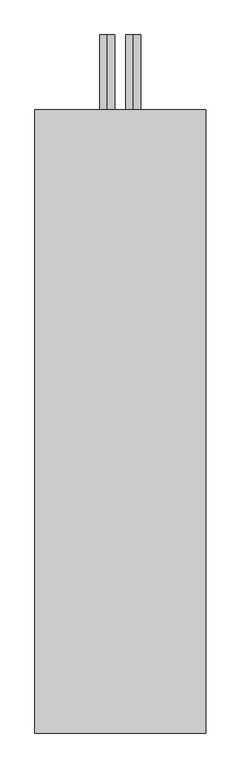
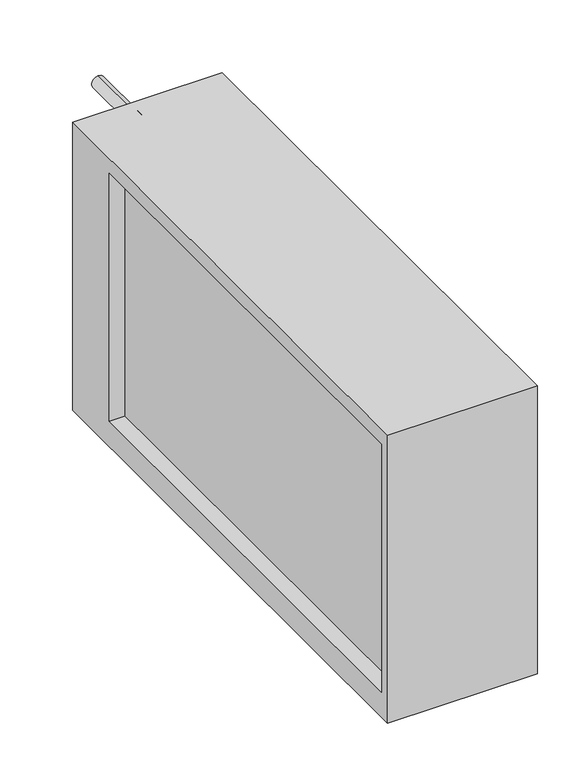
"""IFC4 building model written with IfcOpenShell, lengths in millimetres: proxy geometry, СВ_ВоздухоохладительВодяной_КанальныйПрямоугольный_200-1000_SPC-W : SPC-W-900x500-L."""

from ifc_helpers import new_model, si_unit, point, frame, frame_2d, origin, place, context, project, spatial, polyline, circle_curve, trimmed, segment, composite_curve, outline, extrude, source, transform, mapped, element, save


def mechanical_equipment_4c746dd5(model_context):
    return source(origin(), model_context, "Body", "SweptSolid", [
        extrude(outline(polyline([(-470.0, -300.0), (-470.0, 280.0), (570.0, 280.0), (570.0, -300.0), (-470.0, -300.0)]), holes=[polyline([(-450.0, 250.0), (-450.0, -250.0), (450.0, -250.0), (450.0, 250.0), (-450.0, 250.0)])]), frame((-142.5, 0.0, 0.0), z_axis=(1.0, 0.0, 0.0), x_axis=(0.0, 1.0, 0.0)), (0.0, 0.0, 1.0), 285.0),
        extrude(outline(composite_curve([segment(trimmed(circle_curve(frame_2d((-242.5, 21.5)), 12.5), [point((-255.0, 21.5))], [point((-230.0, 21.5))], False, "CARTESIAN"), True, "CONTINUOUS"), segment(trimmed(circle_curve(frame_2d((-242.5, 21.5)), 12.5), [point((-230.0, 21.5))], [point((-255.0, 21.5))], False, "CARTESIAN"), True, "CONTINUOUS")], self_intersect=False)), frame((0.0, 570.0, 0.0), z_axis=(0.0, 1.0, 0.0), x_axis=(0.0, 0.0, 1.0)), (0.0, 0.0, 1.0), 125.0),
        extrude(outline(composite_curve([segment(trimmed(circle_curve(frame_2d((242.5, -21.5)), 12.5), [point((230.0, -21.5))], [point((255.0, -21.5))], False, "CARTESIAN"), True, "CONTINUOUS"), segment(trimmed(circle_curve(frame_2d((242.5, -21.5)), 12.5), [point((255.0, -21.5))], [point((230.0, -21.5))], False, "CARTESIAN"), True, "CONTINUOUS")], self_intersect=False)), frame((0.0, 570.0, 0.0), z_axis=(0.0, 1.0, 0.0), x_axis=(0.0, 0.0, 1.0)), (0.0, 0.0, 1.0), 125.0),
        extrude(outline(composite_curve([segment(trimmed(circle_curve(frame_2d((0.0, 530.0)), 11.0), [point((-11.0, 530.0))], [point((11.0, 530.0))], False, "CARTESIAN"), True, "CONTINUOUS"), segment(trimmed(circle_curve(frame_2d((0.0, 530.0)), 11.0), [point((11.0, 530.0))], [point((-11.0, 530.0))], False, "CARTESIAN"), True, "CONTINUOUS")], self_intersect=False)), frame((0.0, 0.0, -320.0), z_axis=(0.0, 0.0, 1.0), x_axis=(1.0, 0.0, 0.0)), (0.0, 0.0, 1.0), 20.0),
        extrude(outline(polyline([(112.5, 450.0), (112.5, -450.0), (-112.5, -450.0), (-112.5, 450.0), (112.5, 450.0)])), frame((0.0, 0.0, -250.0), z_axis=(0.0, 0.0, 1.0), x_axis=(1.0, 0.0, 0.0)), (0.0, 0.0, 1.0), 500.0),
    ])


if __name__ == "__main__":
    model = new_model("IFC4")
    model_context = context("Model", 3, world=origin())
    ifc_project = project(units=[si_unit("LENGTHUNIT", "METRE", prefix="MILLI")], contexts=[model_context])
    site = spatial("IfcSite", under=ifc_project)
    building = spatial("IfcBuilding", under=site)
    placement = place(None, origin())
    mechanical_equipment_shape = mechanical_equipment_4c746dd5(model_context)
    element("IfcBuildingElementProxy", 1, Name="СВ_ВоздухоохладительВодяной_КанальныйПрямоугольный_200-1000_SPC-W : SPC-W-900x500-L", ObjectType="СВ_ВоздухоохладительВодяной_КанальныйПрямоугольный_200-1000_SPC-W : SPC-W-900x500-L", at=placement, inside=building, context=model_context, shape_type="MappedRepresentation", body=[
        mapped(mechanical_equipment_shape, transform((0.0, 0.0, 0.0), x_axis=(1.0, 0.0, 0.0), y_axis=(0.0, 1.0, 0.0), z_axis=(0.0, 0.0, 1.0))),
    ])
    save(model, "model.ifc")
